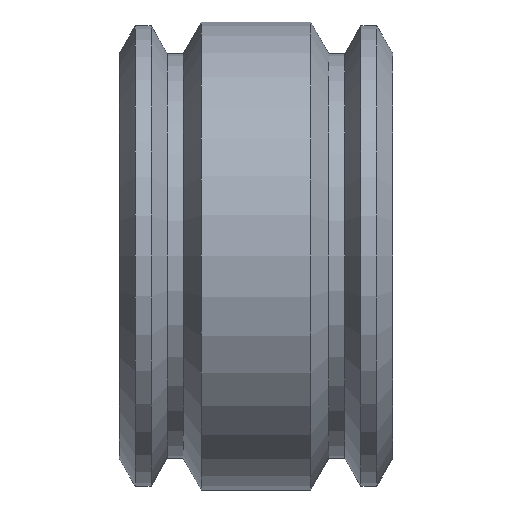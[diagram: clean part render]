
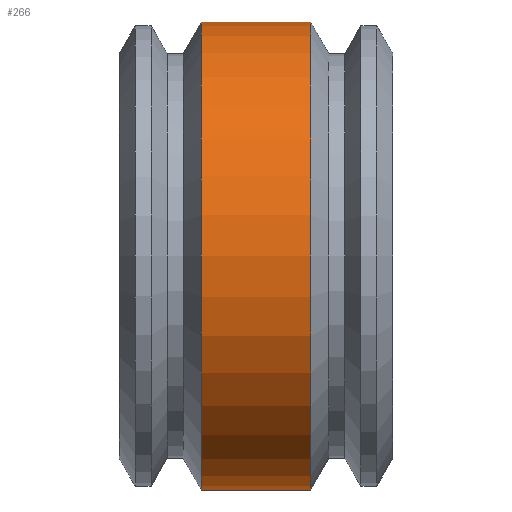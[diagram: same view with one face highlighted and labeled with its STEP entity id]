
A CAD part, front view. The second image highlights one B-rep face of the part: STEP entity #266.
In plain terms, the highlighted cylindrical face has radius 321.691 mm (diameter 643.382 mm), a full revolution.
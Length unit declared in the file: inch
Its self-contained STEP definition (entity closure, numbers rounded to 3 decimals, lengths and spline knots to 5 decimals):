
#21=CYLINDRICAL_SURFACE('',#312,12.665);
#30=FACE_OUTER_BOUND('',#44,.T.);
#44=EDGE_LOOP('',(#205,#206,#207,#208,#209,#210));
#60=LINE('',#475,#72);
#72=VECTOR('',#384,12.665);
#89=CIRCLE('',#310,12.665);
#90=CIRCLE('',#311,12.665);
#91=CIRCLE('',#313,12.665);
#92=CIRCLE('',#314,12.665);
#117=VERTEX_POINT('',#465);
#118=VERTEX_POINT('',#466);
#119=VERTEX_POINT('',#471);
#120=VERTEX_POINT('',#472);
#149=EDGE_CURVE('',#117,#118,#89,.T.);
#150=EDGE_CURVE('',#118,#117,#90,.T.);
#152=EDGE_CURVE('',#119,#120,#91,.T.);
#153=EDGE_CURVE('',#120,#119,#92,.T.);
#154=EDGE_CURVE('',#120,#118,#60,.T.);
#205=ORIENTED_EDGE('',*,*,#152,.F.);
#206=ORIENTED_EDGE('',*,*,#153,.F.);
#207=ORIENTED_EDGE('',*,*,#154,.T.);
#208=ORIENTED_EDGE('',*,*,#150,.T.);
#209=ORIENTED_EDGE('',*,*,#149,.T.);
#210=ORIENTED_EDGE('',*,*,#154,.F.);
#266=ADVANCED_FACE('',(#30),#21,.T.);
#310=AXIS2_PLACEMENT_3D('',#467,#373,#374);
#311=AXIS2_PLACEMENT_3D('',#468,#375,#376);
#312=AXIS2_PLACEMENT_3D('',#470,#378,#379);
#313=AXIS2_PLACEMENT_3D('',#473,#380,#381);
#314=AXIS2_PLACEMENT_3D('',#474,#382,#383);
#373=DIRECTION('center_axis',(-1.,0.,0.));
#374=DIRECTION('ref_axis',(0.,0.,1.));
#375=DIRECTION('center_axis',(-1.,0.,0.));
#376=DIRECTION('ref_axis',(0.,0.,1.));
#378=DIRECTION('center_axis',(-1.,0.,0.));
#379=DIRECTION('ref_axis',(0.,-1.,0.));
#380=DIRECTION('center_axis',(-1.,0.,0.));
#381=DIRECTION('ref_axis',(0.,0.,1.));
#382=DIRECTION('center_axis',(-1.,0.,0.));
#383=DIRECTION('ref_axis',(0.,0.,1.));
#384=DIRECTION('',(1.,0.,0.));
#465=CARTESIAN_POINT('',(2.96,-12.665,0.));
#466=CARTESIAN_POINT('',(2.96,12.665,0.));
#467=CARTESIAN_POINT('Origin',(2.96,0.,0.));
#468=CARTESIAN_POINT('Origin',(2.96,0.,0.));
#470=CARTESIAN_POINT('Origin',(0.,0.,0.));
#471=CARTESIAN_POINT('',(-2.96,-12.665,0.));
#472=CARTESIAN_POINT('',(-2.96,12.665,0.));
#473=CARTESIAN_POINT('Origin',(-2.96,0.,0.));
#474=CARTESIAN_POINT('Origin',(-2.96,0.,0.));
#475=CARTESIAN_POINT('',(0.,12.665,0.));
